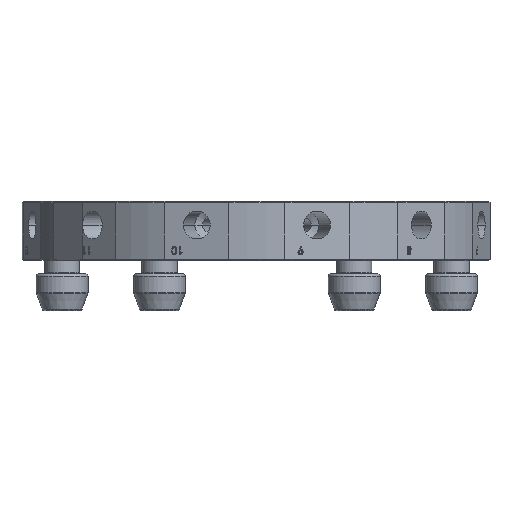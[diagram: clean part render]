
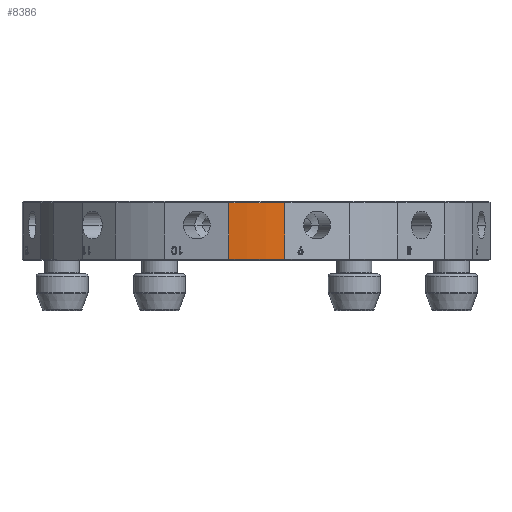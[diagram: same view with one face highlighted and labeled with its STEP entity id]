
A CAD part, left-side view. The second image highlights one B-rep face of the part: STEP entity #8386.
In plain terms, the highlighted cylindrical face has radius 99.5 mm (diameter 199 mm), a partial arc.
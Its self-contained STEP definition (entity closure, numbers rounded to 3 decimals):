
#79 = CARTESIAN_POINT ( 'NONE',  ( -98.786, 11.902, -0.5 ) ) ;
#1343 = DIRECTION ( 'NONE',  ( 0., 0., -1. ) ) ;
#2115 = ORIENTED_EDGE ( 'NONE', *, *, #20075, .T. ) ;
#2583 = CIRCLE ( 'NONE', #17674, 99.5 ) ;
#3167 = CARTESIAN_POINT ( 'NONE',  ( -98.786, -11.902, -24.5 ) ) ;
#5273 = CYLINDRICAL_SURFACE ( 'NONE', #6404, 99.5 ) ;
#5541 = LINE ( 'NONE', #11571, #26583 ) ;
#5893 = LINE ( 'NONE', #11759, #10886 ) ;
#6404 = AXIS2_PLACEMENT_3D ( 'NONE', #20026, #13802, #24261 ) ;
#6834 = EDGE_LOOP ( 'NONE', ( #13975, #9151, #2115, #11116 ) ) ;
#7252 = VERTEX_POINT ( 'NONE', #13142 ) ;
#8323 = VERTEX_POINT ( 'NONE', #24176 ) ;
#8386 = ADVANCED_FACE ( 'NONE', ( #16472 ), #5273, .T. ) ;
#9151 = ORIENTED_EDGE ( 'NONE', *, *, #18958, .T. ) ;
#10886 = VECTOR ( 'NONE', #26415, 1000. ) ;
#11116 = ORIENTED_EDGE ( 'NONE', *, *, #18925, .T. ) ;
#11571 = CARTESIAN_POINT ( 'NONE',  ( -98.786, -11.902, -25. ) ) ;
#11759 = CARTESIAN_POINT ( 'NONE',  ( -98.786, 11.902, -25. ) ) ;
#11814 = CARTESIAN_POINT ( 'NONE',  ( 0., 0., -24.5 ) ) ;
#13142 = CARTESIAN_POINT ( 'NONE',  ( -98.786, -11.902, -0.5 ) ) ;
#13645 = DIRECTION ( 'NONE',  ( 0., 0., 1. ) ) ;
#13802 = DIRECTION ( 'NONE',  ( 0., 0., 1. ) ) ;
#13814 = CIRCLE ( 'NONE', #17646, 99.5 ) ;
#13915 = DIRECTION ( 'NONE',  ( 0., -1., 0. ) ) ;
#13975 = ORIENTED_EDGE ( 'NONE', *, *, #20291, .T. ) ;
#14006 = CARTESIAN_POINT ( 'NONE',  ( 0., 0., -0.5 ) ) ;
#16100 = DIRECTION ( 'NONE',  ( 0., -1., 0. ) ) ;
#16472 = FACE_OUTER_BOUND ( 'NONE', #6834, .T. ) ;
#17646 = AXIS2_PLACEMENT_3D ( 'NONE', #14006, #1343, #16100 ) ;
#17674 = AXIS2_PLACEMENT_3D ( 'NONE', #11814, #26472, #13915 ) ;
#18925 = EDGE_CURVE ( 'NONE', #8323, #23789, #2583, .T. ) ;
#18958 = EDGE_CURVE ( 'NONE', #7252, #26941, #13814, .T. ) ;
#20026 = CARTESIAN_POINT ( 'NONE',  ( 0., 0., -25. ) ) ;
#20075 = EDGE_CURVE ( 'NONE', #26941, #8323, #5893, .T. ) ;
#20291 = EDGE_CURVE ( 'NONE', #23789, #7252, #5541, .T. ) ;
#23789 = VERTEX_POINT ( 'NONE', #3167 ) ;
#24176 = CARTESIAN_POINT ( 'NONE',  ( -98.786, 11.902, -24.5 ) ) ;
#24261 = DIRECTION ( 'NONE',  ( 0., 1., 0. ) ) ;
#26415 = DIRECTION ( 'NONE',  ( 0., 0., -1. ) ) ;
#26472 = DIRECTION ( 'NONE',  ( 0., 0., 1. ) ) ;
#26583 = VECTOR ( 'NONE', #13645, 1000. ) ;
#26941 = VERTEX_POINT ( 'NONE', #79 ) ;
